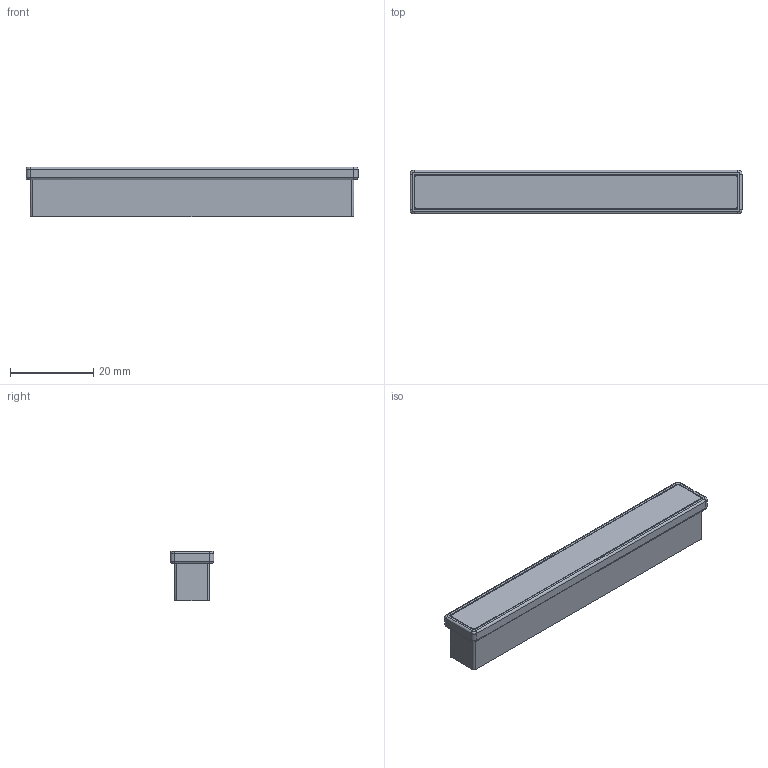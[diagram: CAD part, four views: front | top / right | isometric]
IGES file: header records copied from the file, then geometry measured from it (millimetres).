
Start section: C
Global section: file name: 8111-80.igs; native system: By Siemens PLM Incorporated; preprocessor: XPlus GENERIC/IGES 16.0.42; author: Author; organization: Title; date: 20231128.094531; units: millimetre
Bounding box: 80 x 10.5 x 12 mm (x, y, z)
Surface area: 8871.5 mm2 (no closed solid volume)
Topology: 0 solids, 0 shells, 303 faces, 1990 edges, 1990 vertices
Faces by surface type: bspline 303
